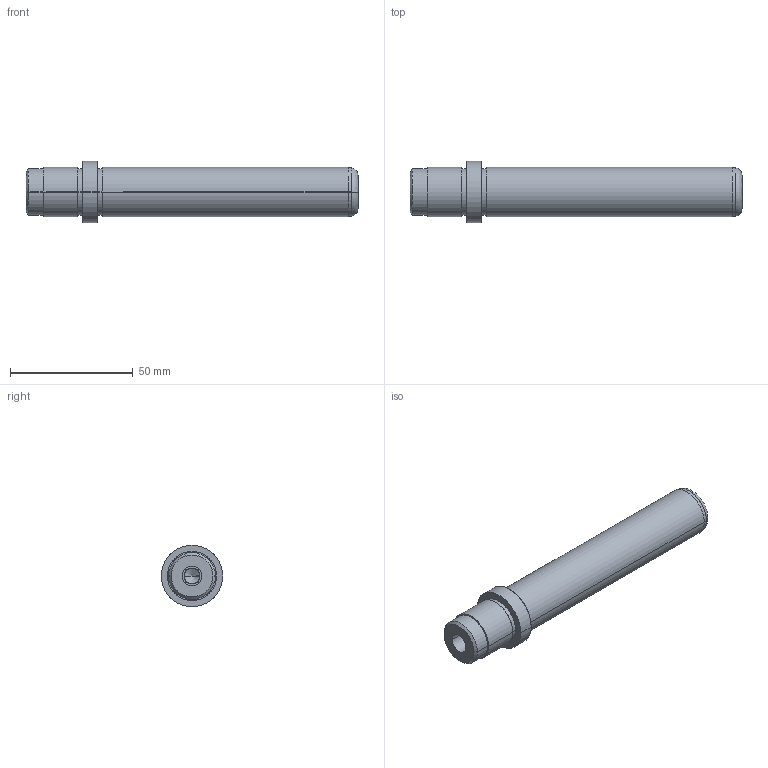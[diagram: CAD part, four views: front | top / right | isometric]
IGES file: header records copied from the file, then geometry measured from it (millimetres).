
Start section: SolidWorks IGES FILE using analytic representation for surfaces
Global section: file name: D:\zzzzz\Delta\D06\20\D06 - 20x112x23.IGS; native system: SolidWorks 2004 by SolidWorks Corporation; preprocessor: Version 5.3; author: Hkn; date: 080327.150303; units: millimetre
Bounding box: 135 x 25 x 25 mm (x, y, z)
Surface area: 10704.2 mm2 (no closed solid volume)
Topology: 0 solids, 0 shells, 39 faces, 696 edges, 692 vertices
Faces by surface type: revolution 28, bspline 11
